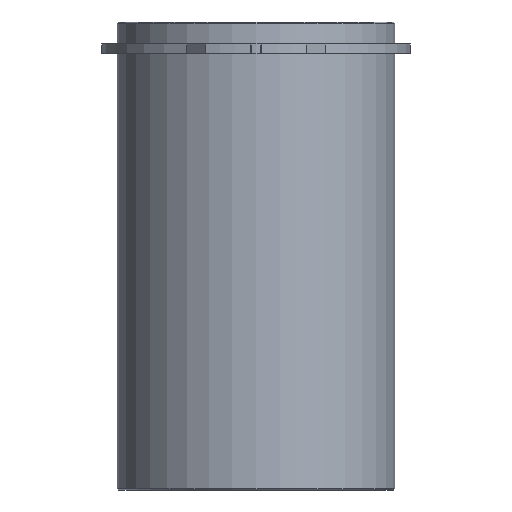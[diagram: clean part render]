
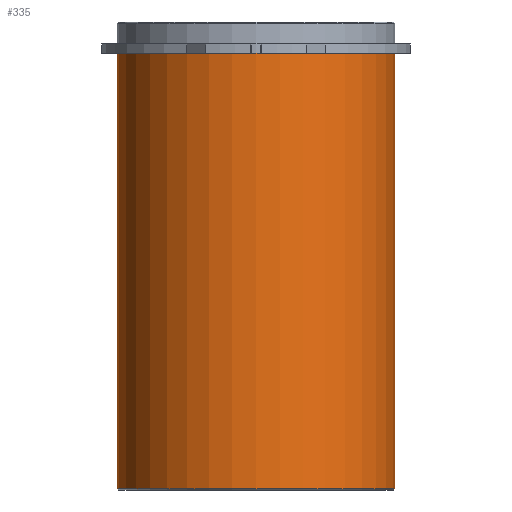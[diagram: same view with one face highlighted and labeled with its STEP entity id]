
A CAD part, front view. The second image highlights one B-rep face of the part: STEP entity #335.
In plain terms, the highlighted cylindrical face has radius 29.625 mm (diameter 59.25 mm), a partial arc.
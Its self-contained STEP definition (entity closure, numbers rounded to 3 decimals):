
#294=CARTESIAN_POINT('',(0.0,0.,-46.5));
#295=DIRECTION('',(0.0,0.,1.0));
#296=DIRECTION('',(1.0,0.0,0.0));
#297=AXIS2_PLACEMENT_3D('',#294,#295,#296);
#298=CYLINDRICAL_SURFACE('',#297,29.625);
#299=CARTESIAN_POINT('',(29.625,0.0,0.0));
#300=VERTEX_POINT('',#299);
#301=CARTESIAN_POINT('',(29.625,0.,-93.0));
#302=VERTEX_POINT('',#301);
#303=CARTESIAN_POINT('',(29.625,0.0,0.0));
#304=DIRECTION('',(0.0,0.0,-1.0));
#305=VECTOR('',#304,93.0);
#306=LINE('',#303,#305);
#307=EDGE_CURVE('',#300,#302,#306,.T.);
#308=ORIENTED_EDGE('',*,*,#307,.F.);
#309=CARTESIAN_POINT('',(-29.625,0.,0.0));
#310=VERTEX_POINT('',#309);
#311=CARTESIAN_POINT('',(0.0,0.0,0.0));
#312=DIRECTION('',(0.0,0.0,1.0));
#313=DIRECTION('',(1.0,0.0,0.0));
#314=AXIS2_PLACEMENT_3D('',#311,#312,#313);
#315=CIRCLE('',#314,29.625);
#316=EDGE_CURVE('',#310,#300,#315,.T.);
#317=ORIENTED_EDGE('',*,*,#316,.F.);
#318=CARTESIAN_POINT('',(-29.625,0.,-93.0));
#319=VERTEX_POINT('',#318);
#320=CARTESIAN_POINT('',(-29.625,0.,0.0));
#321=DIRECTION('',(0.0,0.0,-1.0));
#322=VECTOR('',#321,93.0);
#323=LINE('',#320,#322);
#324=EDGE_CURVE('',#310,#319,#323,.T.);
#325=ORIENTED_EDGE('',*,*,#324,.T.);
#326=CARTESIAN_POINT('',(0.0,0.,-93.0));
#327=DIRECTION('',(0.0,0.0,1.0));
#328=DIRECTION('',(1.0,0.0,0.0));
#329=AXIS2_PLACEMENT_3D('',#326,#327,#328);
#330=CIRCLE('',#329,29.625);
#331=EDGE_CURVE('',#319,#302,#330,.T.);
#332=ORIENTED_EDGE('',*,*,#331,.T.);
#333=EDGE_LOOP('',(#308,#317,#325,#332));
#334=FACE_OUTER_BOUND('',#333,.T.);
#335=ADVANCED_FACE('',(#334),#298,.T.);
